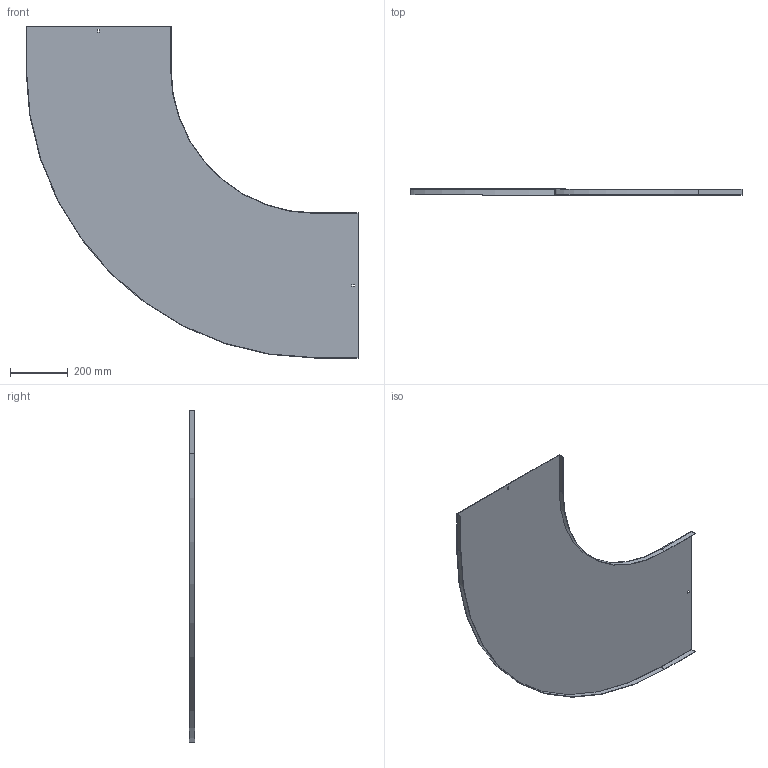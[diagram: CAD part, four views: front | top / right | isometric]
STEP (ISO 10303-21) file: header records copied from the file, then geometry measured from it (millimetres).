
FILE_DESCRIPTION (( 'STEP AP214' ), '1' );
FILE_NAME ('10N5R500.step', '2025-02-21T10:53:22', ( '' ), ( '' ), 'SwSTEP 2.0', 'SolidWorks 2023', '' );
FILE_SCHEMA (( 'AUTOMOTIVE_DESIGN' ));
Length unit declared in the file: millimetre
Products named in the file (1): 10N5R500
Bounding box: 1151.5 x 20 x 1151.5 mm (x, y, z)
Volume: 1197083.3 mm3; surface area: 1602258.3 mm2
Topology: 1 solids, 1 shells, 26 faces, 72 edges, 48 vertices
Faces by surface type: plane 22, cylinder 4
Entity records: 855 total; most frequent: CARTESIAN_POINT 147, ORIENTED_EDGE 144, DIRECTION 134, EDGE_CURVE 72, LINE 64, VECTOR 64, VERTEX_POINT 48, AXIS2_PLACEMENT_3D 35
